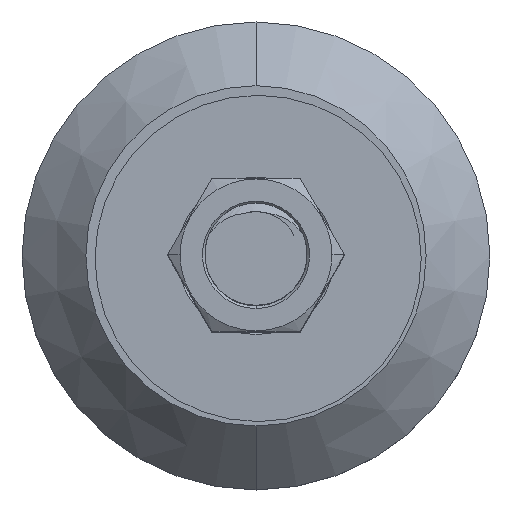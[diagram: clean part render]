
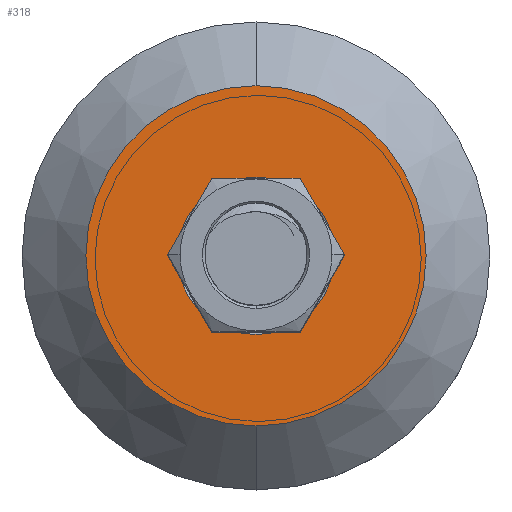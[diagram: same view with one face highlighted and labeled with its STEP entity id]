
A CAD part, top view. The second image highlights one B-rep face of the part: STEP entity #318.
In plain terms, the highlighted planar face has unit normal (0, 0, 1).
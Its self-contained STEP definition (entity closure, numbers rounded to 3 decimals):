
#318 = ADVANCED_FACE ( 'NONE', ( #3210, #10882 ), #8501, .T. ) ;
#484 = CIRCLE ( 'NONE', #9440, 9.25 ) ;
#624 = DIRECTION ( 'NONE',  ( 0., 0., 1. ) ) ;
#1000 = CIRCLE ( 'NONE', #9508, 20. ) ;
#1222 = ORIENTED_EDGE ( 'NONE', *, *, #11428, .T. ) ;
#1237 = CARTESIAN_POINT ( 'NONE',  ( 0., 0., 14. ) ) ;
#1487 = EDGE_CURVE ( 'NONE', #12068, #6001, #484, .T. ) ;
#2256 = DIRECTION ( 'NONE',  ( 1., 0., 0. ) ) ;
#2322 = DIRECTION ( 'NONE',  ( 0., 0., -1. ) ) ;
#2496 = CARTESIAN_POINT ( 'NONE',  ( -20.24, -20.24, 14. ) ) ;
#2843 = CARTESIAN_POINT ( 'NONE',  ( 0., -20., 14. ) ) ;
#3210 = FACE_BOUND ( 'NONE', #11165, .T. ) ;
#3259 = ORIENTED_EDGE ( 'NONE', *, *, #1487, .T. ) ;
#3514 = DIRECTION ( 'NONE',  ( 1., 0., 0. ) ) ;
#3516 = EDGE_CURVE ( 'NONE', #10897, #3700, #9523, .T. ) ;
#3700 = VERTEX_POINT ( 'NONE', #2843 ) ;
#3907 = AXIS2_PLACEMENT_3D ( 'NONE', #2496, #9520, #3514 ) ;
#4082 = CARTESIAN_POINT ( 'NONE',  ( 0., 20., 14. ) ) ;
#4475 = EDGE_CURVE ( 'NONE', #6001, #12068, #8284, .T. ) ;
#5978 = AXIS2_PLACEMENT_3D ( 'NONE', #1237, #8260, #2256 ) ;
#5981 = DIRECTION ( 'NONE',  ( 0., 0., 1. ) ) ;
#6001 = VERTEX_POINT ( 'NONE', #11049 ) ;
#6066 = AXIS2_PLACEMENT_3D ( 'NONE', #6671, #624, #7661 ) ;
#6183 = ORIENTED_EDGE ( 'NONE', *, *, #4475, .T. ) ;
#6671 = CARTESIAN_POINT ( 'NONE',  ( 0., 0., 14. ) ) ;
#7661 = DIRECTION ( 'NONE',  ( 0., 1., 0. ) ) ;
#7663 = EDGE_LOOP ( 'NONE', ( #11882, #1222 ) ) ;
#8260 = DIRECTION ( 'NONE',  ( 0., 0., -1. ) ) ;
#8284 = CIRCLE ( 'NONE', #5978, 9.25 ) ;
#8324 = CARTESIAN_POINT ( 'NONE',  ( 0., 0., 14. ) ) ;
#8501 = PLANE ( 'NONE',  #3907 ) ;
#9347 = DIRECTION ( 'NONE',  ( 1., 0., 0. ) ) ;
#9440 = AXIS2_PLACEMENT_3D ( 'NONE', #8324, #2322, #9347 ) ;
#9508 = AXIS2_PLACEMENT_3D ( 'NONE', #11966, #5981, #12952 ) ;
#9520 = DIRECTION ( 'NONE',  ( 0., 0., 1. ) ) ;
#9523 = CIRCLE ( 'NONE', #6066, 20. ) ;
#10705 = CARTESIAN_POINT ( 'NONE',  ( -9.25, 0., 14. ) ) ;
#10882 = FACE_OUTER_BOUND ( 'NONE', #7663, .T. ) ;
#10897 = VERTEX_POINT ( 'NONE', #4082 ) ;
#11049 = CARTESIAN_POINT ( 'NONE',  ( 9.25, 0., 14. ) ) ;
#11165 = EDGE_LOOP ( 'NONE', ( #6183, #3259 ) ) ;
#11428 = EDGE_CURVE ( 'NONE', #3700, #10897, #1000, .T. ) ;
#11882 = ORIENTED_EDGE ( 'NONE', *, *, #3516, .T. ) ;
#11966 = CARTESIAN_POINT ( 'NONE',  ( 0., 0., 14. ) ) ;
#12068 = VERTEX_POINT ( 'NONE', #10705 ) ;
#12952 = DIRECTION ( 'NONE',  ( 0., 1., 0. ) ) ;
